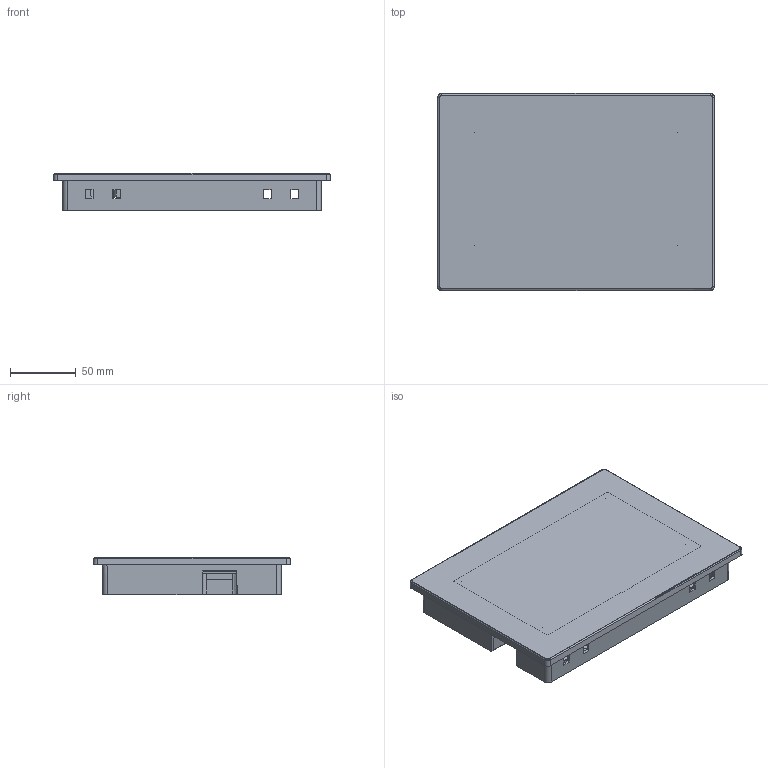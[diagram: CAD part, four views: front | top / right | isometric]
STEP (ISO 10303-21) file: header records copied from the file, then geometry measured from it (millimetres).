
FILE_DESCRIPTION(/* description */ (''),/* implementation_level */ '2;1');
FILE_NAME(/* name */ '3D_SDWe070S15T.stp',/* time_stamp */ '2020-10-20T09:28:42+08:00',/* author */ (''),/* organization */ (''),/* preprocessor_version */ 'ST-DEVELOPER v15',/* originating_system */ 'SIEMENS PLM Software NX 8.5',/* authorisation */ '');
FILE_SCHEMA (('AP203_CONFIGURATION_CONTROLLED_3D_DESIGN_OF_MECHANICAL_PARTS_AND_ASSEMBLIES_MIM_LF { 1 0 10303 403 2 1 2}'));
Products named in the file (5): M3X6; DPK-VGTC01_dxf; luosi_MODEL; hougai01_stp_MODEL; SDWe070S15
Assembly tree (9 placements, depth 4):
  SDWe070S15
    hougai01_stp_MODEL
      luosi_MODEL  x6
        M3X6
    DPK-VGTC01_dxf
Bounding box: 210 x 149.5 x 28.4 mm (x, y, z)
Volume: 320714 mm3; surface area: 387415.9 mm2
Topology: 290 solids, 290 shells, 2726 faces, 6208 edges, 4100 vertices
Faces by surface type: plane 2205, cone 238, bspline 136, cylinder 118, torus 22, sphere 6, extrusion 1
Full cylindrical faces by diameter (mm): 1.9 x4, 2.1 x4, 2.874 x6, 2.9 x4, 3 x6, 3.2 x2, 5.2 x1, 5.6 x6, 5.807 x1, 5.814 x1
Entity records: 76958 total; most frequent: CARTESIAN_POINT 13317, ORIENTED_EDGE 11518, DIRECTION 11382, EDGE_CURVE 5759, VECTOR 4924, LINE 4923, VERTEX_POINT 3819, AXIS2_PLACEMENT_3D 3229
